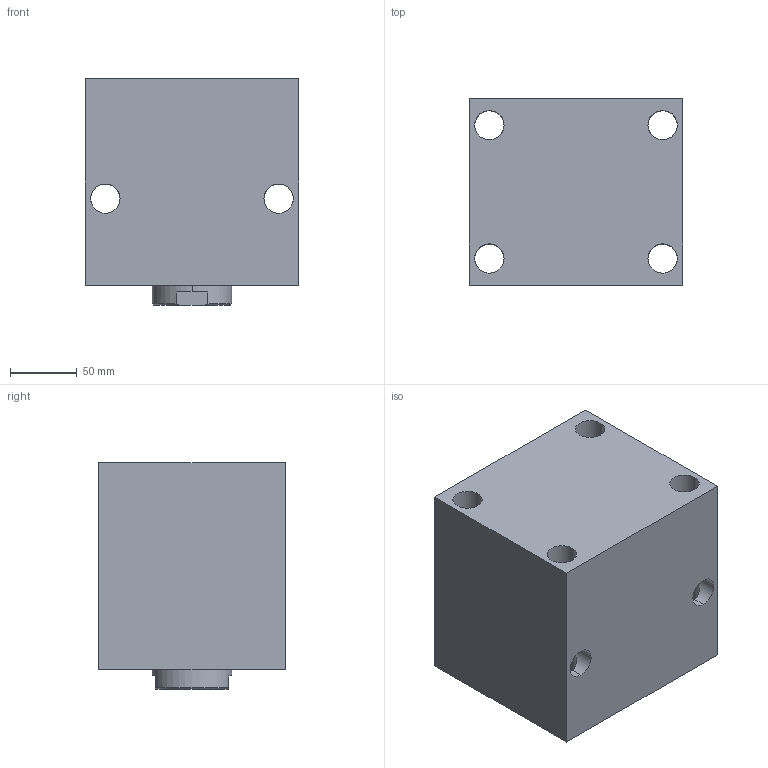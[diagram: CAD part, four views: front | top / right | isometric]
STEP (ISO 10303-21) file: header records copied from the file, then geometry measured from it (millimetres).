
FILE_DESCRIPTION (( 'STEP AP203' ), '1' );
FILE_NAME ('Block cylinder B01C-975F.STEP', '2022-07-09T18:42:14', ( '' ), ( '' ), 'SwSTEP 2.0', 'SolidWorks 2017', '' );
FILE_SCHEMA (( 'CONFIG_CONTROL_DESIGN' ));
Length unit declared in the file: millimetre
Products named in the file (3): Block cylinder B01C-975F; Body_ 975F_50ST; Piston _975F
Assembly tree (2 placements, depth 2):
  Block cylinder B01C-975F
    Body_ 975F_50ST
    Piston _975F
Bounding box: 160 x 140 x 170 mm (x, y, z)
Volume: 3380472.2 mm3; surface area: 243614.4 mm2
Topology: 2 solids, 2 shells, 342 faces, 936 edges, 611 vertices
Faces by surface type: bspline 147, plane 143, cylinder 44, cone 8
Entity records: 17039 total; most frequent: CARTESIAN_POINT 9135, ORIENTED_EDGE 1860, DIRECTION 1062, EDGE_CURVE 930, VERTEX_POINT 611, LINE 538, VECTOR 538, EDGE_LOOP 381
